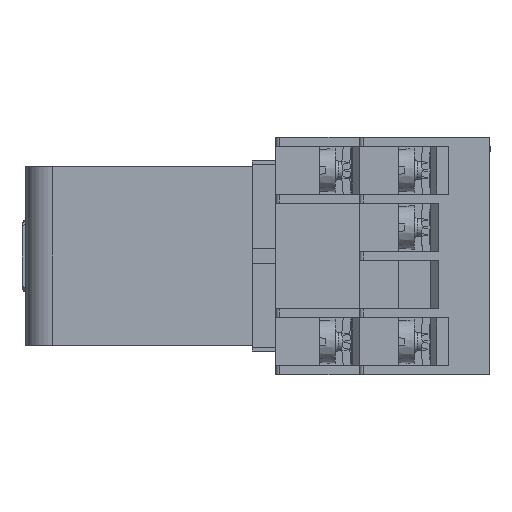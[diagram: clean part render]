
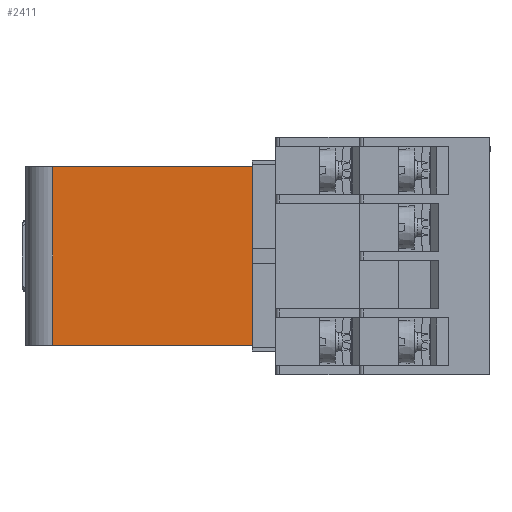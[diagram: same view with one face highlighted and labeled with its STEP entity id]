
A CAD part, left-side view. The second image highlights one B-rep face of the part: STEP entity #2411.
In plain terms, the highlighted planar face has unit normal (-1, 0, 0).
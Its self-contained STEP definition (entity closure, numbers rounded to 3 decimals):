
#2411=ADVANCED_FACE('',(#31953),#31955,.T.);
#31953=FACE_BOUND('',#31954,.T.);
#31954=EDGE_LOOP('',(#60615,#60616,#60617,#60618,#60619,#60620));
#31955=PLANE('',#31956);
#31956=AXIS2_PLACEMENT_3D('',#31957,#31958,#31959);
#31957=CARTESIAN_POINT('',(-16.375,30.,11.25));
#31958=DIRECTION('',(-1.,0.,0.));
#31959=DIRECTION('',(0.,1.,0.));
#60615=ORIENTED_EDGE('',*,*,#78113,.T.);
#60616=ORIENTED_EDGE('',*,*,#78722,.F.);
#60617=ORIENTED_EDGE('',*,*,#78101,.T.);
#60618=ORIENTED_EDGE('',*,*,#78725,.T.);
#60619=ORIENTED_EDGE('',*,*,#78726,.T.);
#60620=ORIENTED_EDGE('',*,*,#78727,.F.);
#78101=EDGE_CURVE('',#87747,#87745,#87748,.T.);
#78113=EDGE_CURVE('',#87760,#87766,#87768,.T.);
#78722=EDGE_CURVE('',#87747,#87766,#88760,.T.);
#78725=EDGE_CURVE('',#87745,#88763,#88764,.T.);
#78726=EDGE_CURVE('',#88763,#88765,#88766,.T.);
#78727=EDGE_CURVE('',#87760,#88765,#88767,.T.);
#87745=VERTEX_POINT('',#103890);
#87747=VERTEX_POINT('',#103894);
#87748=LINE('',#103895,#103896);
#87760=VERTEX_POINT('',#103923);
#87766=VERTEX_POINT('',#103935);
#87768=LINE('',#103939,#103940);
#88760=LINE('',#106172,#106173);
#88763=VERTEX_POINT('',#106181);
#88764=LINE('',#106182,#106183);
#88765=VERTEX_POINT('',#106185);
#88766=LINE('',#106186,#106187);
#88767=LINE('',#106189,#106190);
#103890=CARTESIAN_POINT('',(-16.375,30.,11.25));
#103894=CARTESIAN_POINT('',(-16.375,30.,1.));
#103895=CARTESIAN_POINT('',(-16.375,30.,1.));
#103896=VECTOR('',#103897,1.);
#103897=DIRECTION('',(0.,0.,1.));
#103923=CARTESIAN_POINT('',(-16.375,30.,-11.25));
#103935=CARTESIAN_POINT('',(-16.375,30.,-1.));
#103939=CARTESIAN_POINT('',(-16.375,30.,-11.25));
#103940=VECTOR('',#103941,1.);
#103941=DIRECTION('',(0.,0.,1.));
#106172=CARTESIAN_POINT('',(-16.375,30.,1.));
#106173=VECTOR('',#106174,1.);
#106174=DIRECTION('',(0.,0.,-1.));
#106181=CARTESIAN_POINT('',(-16.375,55.1,11.25));
#106182=CARTESIAN_POINT('',(-16.375,30.,11.25));
#106183=VECTOR('',#106184,1.);
#106184=DIRECTION('',(0.,1.,0.));
#106185=CARTESIAN_POINT('',(-16.375,55.1,-11.25));
#106186=CARTESIAN_POINT('',(-16.375,55.1,11.25));
#106187=VECTOR('',#106188,1.);
#106188=DIRECTION('',(0.,0.,-1.));
#106189=CARTESIAN_POINT('',(-16.375,30.,-11.25));
#106190=VECTOR('',#106191,1.);
#106191=DIRECTION('',(0.,1.,0.));
